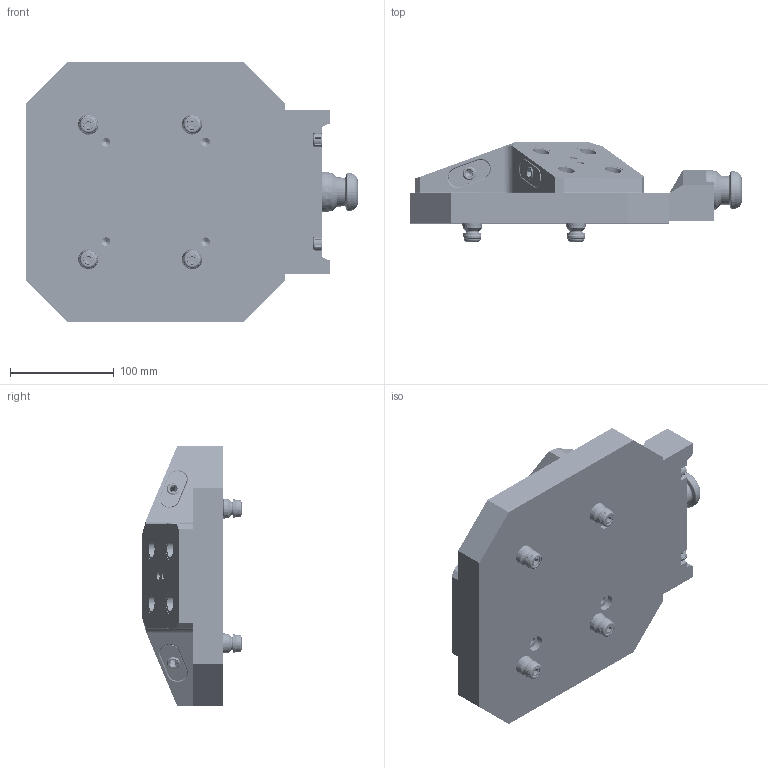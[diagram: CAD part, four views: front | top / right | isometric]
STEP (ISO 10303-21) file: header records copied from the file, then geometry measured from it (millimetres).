
FILE_DESCRIPTION (( 'STEP AP214' ), '1' );
FILE_NAME ('RL52A-DN250-P320 WEBSITE.STEP', '2026-08-31T17:02:28', ( '' ), ( '' ), 'SwSTEP 2.0', 'SolidWorks 2024', '' );
FILE_SCHEMA (( 'AUTOMOTIVE_DESIGN' ));
Length unit declared in the file: millimetre
Products named in the file (19): RL52A-DN250-P320 WEBSITE; M8X40.SHCS.12.9.BL_M8X40.SHCS.12.9.BL; RL52-1DN250-P320A; M10x020.DP_91595A640; 5AX-DNAWC-C; D_92981A144_ALLOY STEEL SHOULDER SCREW_WEBSITE_92981A144; D_RL52-2L_WEBSITE; XSPA-40-16; 76176_76176; 9452K77-Truck-O-Ring_WEBSITE; XSPA-MINI-20; D_RL52-2R_WEBSITE; HW.M16X40.FTSS_HW.M16X40.FTSS; D_RL52-3_WEBSITE; RL52 Hardware WEBSITE; 9452K168-Base-O-Ring_WEBSITE; D_HW22X16.DB_WEBSITE; XSPB-MINI-20; XSPC-MINI-20
Assembly tree (38 placements, depth 3):
  RL52A-DN250-P320 WEBSITE
    RL52-1DN250-P320A
    5AX-DNAWC-C
    XSPA-40-16
    XSPA-MINI-20
    XSPB-MINI-20
    XSPC-MINI-20  x2
    HW.M16X40.FTSS_HW.M16X40.FTSS
    M8X40.SHCS.12.9.BL_M8X40.SHCS.12.9.BL  x6
    76176_76176  x4
    M10x020.DP_91595A640  x2
    RL52 Hardware WEBSITE  x3
      D_RL52-2R_WEBSITE
      D_RL52-2L_WEBSITE
      D_RL52-3_WEBSITE
      D_HW22X16.DB_WEBSITE
      D_92981A144_ALLOY STEEL SHOULDER SCREW_WEBSITE_92981A144
      9452K77-Truck-O-Ring_WEBSITE
      9452K168-Base-O-Ring_WEBSITE
Bounding box: 320 x 95.5 x 250 mm (x, y, z)
Volume: 2941898.5 mm3; surface area: 343172.1 mm2
Topology: 65 solids, 65 shells, 4474 faces, 12259 edges, 8003 vertices
Faces by surface type: plane 1680, cylinder 1443, torus 1086, cone 219, bspline 42, sphere 4
Full cylindrical faces by diameter (mm): 2.5 x6, 3 x6, 4 x6, 4.089 x6, 5 x4, 6 x6, 6.147 x6, 6.8 x10, 7.01 x6, 8 x132, 8.2 x4, 8.271 x6, 8.5 x4, 8.89 x3, 9 x6, 9.144 x12, 9.525 x12, 10 x6, 10.025 x2, 10.075 x2, 10.5 x4, 12 x10, 12.022 x4, 12.6 x6, 13.754 x6, 14 x5, 14.326 x11, 15.24 x6, 15.291 x12, 15.875 x3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
Entity records: 61836 total; most frequent: CARTESIAN_POINT 32180, ORIENTED_EDGE 5766, DIRECTION 5561, EDGE_CURVE 2883, AXIS2_PLACEMENT_3D 2315, VERTEX_POINT 2026, EDGE_LOOP 1771, FACE_OUTER_BOUND 1519
